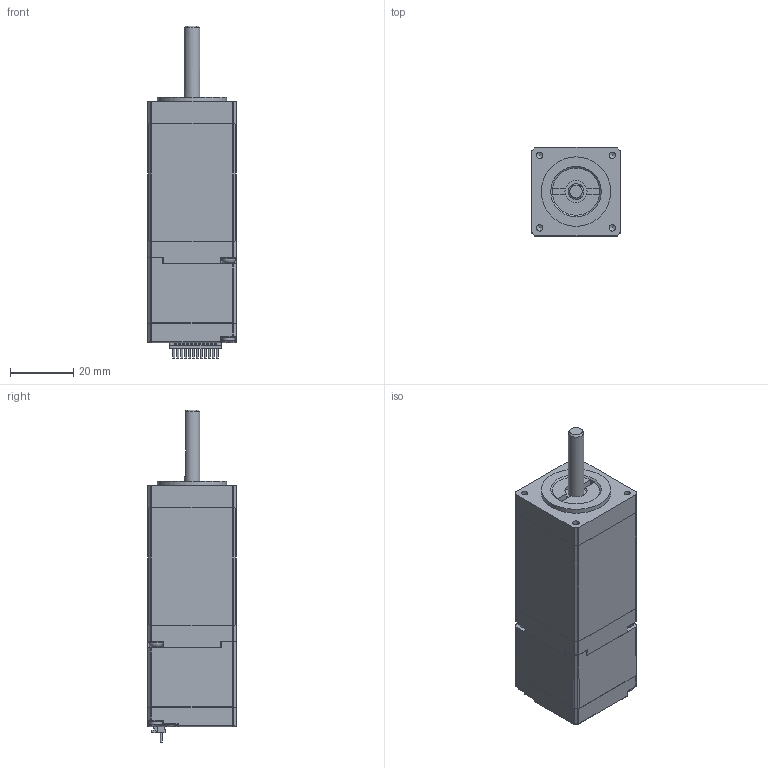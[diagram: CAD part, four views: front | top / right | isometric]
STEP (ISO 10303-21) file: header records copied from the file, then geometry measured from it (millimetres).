
FILE_DESCRIPTION (( 'STEP AP214' ), '1' );
FILE_NAME ('IM28ET(C)018-(P).STEP', '2024-11-15T06:11:09', ( '' ), ( '' ), 'SwSTEP 2.0', 'SolidWorks 2023', '' );
FILE_SCHEMA (( 'AUTOMOTIVE_DESIGN' ));
Length unit declared in the file: millimetre
Products named in the file (3): IM28驱动器; IM28ET(C)018-(P); IM28电机
Assembly tree (2 placements, depth 2):
  IM28ET(C)018-(P)
    IM28电机
    IM28驱动器
Bounding box: 28.4 x 28.4 x 105.2 mm (x, y, z)
Volume: 55935.8 mm3; surface area: 19253.9 mm2
Topology: 2 solids, 14 shells, 1844 faces, 5188 edges, 3329 vertices
Faces by surface type: plane 1300, cylinder 367, cone 131, torus 34, sphere 10, bspline 2
Full cylindrical faces by diameter (mm): 0.5 x2, 0.6 x13, 0.65 x2, 0.7 x4, 0.75 x1, 0.8 x2, 0.9 x4, 1.5 x2, 1.7 x36, 2 x4, 2.05 x4, 2.5 x18, 2.6 x4, 2.7 x2, 3 x1, 4 x2, 4.5 x2, 5 x2, 8 x1, 10.165 x1, 22 x1, 26 x1
Entity records: 63138 total; most frequent: CARTESIAN_POINT 13251, ORIENTED_EDGE 9802, DIRECTION 8948, EDGE_CURVE 4901, LINE 3570, VECTOR 3570, VERTEX_POINT 3260, AXIS2_PLACEMENT_3D 2689
